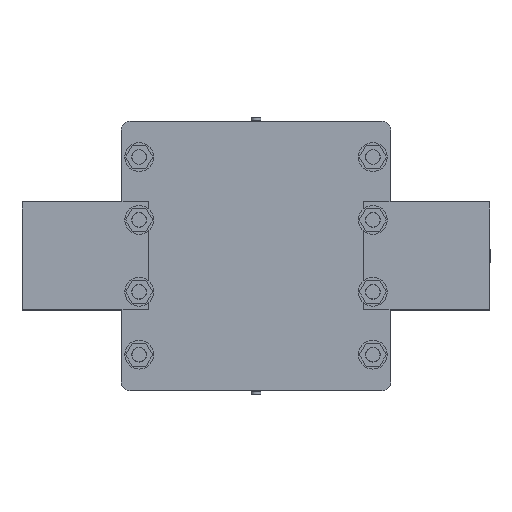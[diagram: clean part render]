
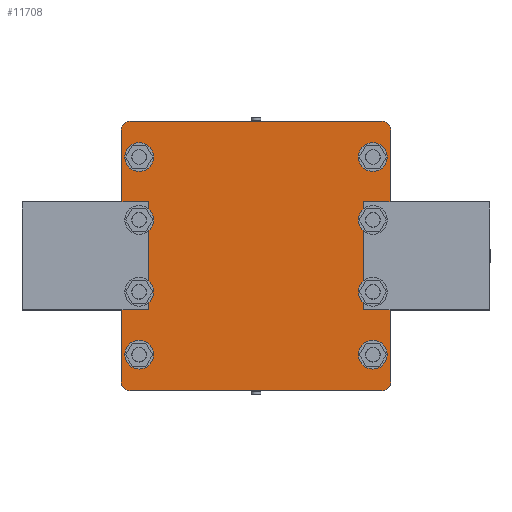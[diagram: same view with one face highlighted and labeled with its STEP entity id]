
A CAD part, top view. The second image highlights one B-rep face of the part: STEP entity #11708.
In plain terms, the highlighted planar face has unit normal (0, 0, 1).
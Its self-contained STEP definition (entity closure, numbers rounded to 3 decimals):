
#11448 = VERTEX_POINT('',#11449);
#11449 = CARTESIAN_POINT('',(-70.,-75.,12.));
#11455 = EDGE_CURVE('',#11448,#11456,#11458,.T.);
#11456 = VERTEX_POINT('',#11457);
#11457 = CARTESIAN_POINT('',(70.,-75.,12.));
#11458 = LINE('',#11459,#11460);
#11459 = CARTESIAN_POINT('',(-70.,-75.,12.));
#11460 = VECTOR('',#11461,1.);
#11461 = DIRECTION('',(1.,0.,0.));
#11488 = VERTEX_POINT('',#11489);
#11489 = CARTESIAN_POINT('',(-75.,-70.,12.));
#11495 = EDGE_CURVE('',#11488,#11448,#11496,.T.);
#11496 = CIRCLE('',#11497,5.);
#11497 = AXIS2_PLACEMENT_3D('',#11498,#11499,#11500);
#11498 = CARTESIAN_POINT('',(-70.,-70.,12.));
#11499 = DIRECTION('',(0.,0.,1.));
#11500 = DIRECTION('',(1.,0.,0.));
#11519 = EDGE_CURVE('',#11456,#11520,#11522,.T.);
#11520 = VERTEX_POINT('',#11521);
#11521 = CARTESIAN_POINT('',(75.,-70.,12.));
#11522 = CIRCLE('',#11523,5.);
#11523 = AXIS2_PLACEMENT_3D('',#11524,#11525,#11526);
#11524 = CARTESIAN_POINT('',(70.,-70.,12.));
#11525 = DIRECTION('',(0.,0.,1.));
#11526 = DIRECTION('',(1.,0.,0.));
#11708 = ADVANCED_FACE('',(#11709,#11754,#11765,#11776,#11787,#11798,
    #11809,#11820,#11831),#11842,.T.);
#11709 = FACE_BOUND('',#11710,.T.);
#11710 = EDGE_LOOP('',(#11711,#11712,#11713,#11721,#11730,#11738,#11747,
    #11753));
#11711 = ORIENTED_EDGE('',*,*,#11455,.T.);
#11712 = ORIENTED_EDGE('',*,*,#11519,.T.);
#11713 = ORIENTED_EDGE('',*,*,#11714,.T.);
#11714 = EDGE_CURVE('',#11520,#11715,#11717,.T.);
#11715 = VERTEX_POINT('',#11716);
#11716 = CARTESIAN_POINT('',(75.,70.,12.));
#11717 = LINE('',#11718,#11719);
#11718 = CARTESIAN_POINT('',(75.,-70.,12.));
#11719 = VECTOR('',#11720,1.);
#11720 = DIRECTION('',(0.,1.,0.));
#11721 = ORIENTED_EDGE('',*,*,#11722,.T.);
#11722 = EDGE_CURVE('',#11715,#11723,#11725,.T.);
#11723 = VERTEX_POINT('',#11724);
#11724 = CARTESIAN_POINT('',(70.,75.,12.));
#11725 = CIRCLE('',#11726,5.);
#11726 = AXIS2_PLACEMENT_3D('',#11727,#11728,#11729);
#11727 = CARTESIAN_POINT('',(70.,70.,12.));
#11728 = DIRECTION('',(0.,0.,1.));
#11729 = DIRECTION('',(1.,0.,0.));
#11730 = ORIENTED_EDGE('',*,*,#11731,.T.);
#11731 = EDGE_CURVE('',#11723,#11732,#11734,.T.);
#11732 = VERTEX_POINT('',#11733);
#11733 = CARTESIAN_POINT('',(-70.,75.,12.));
#11734 = LINE('',#11735,#11736);
#11735 = CARTESIAN_POINT('',(70.,75.,12.));
#11736 = VECTOR('',#11737,1.);
#11737 = DIRECTION('',(-1.,0.,0.));
#11738 = ORIENTED_EDGE('',*,*,#11739,.T.);
#11739 = EDGE_CURVE('',#11732,#11740,#11742,.T.);
#11740 = VERTEX_POINT('',#11741);
#11741 = CARTESIAN_POINT('',(-75.,70.,12.));
#11742 = CIRCLE('',#11743,5.);
#11743 = AXIS2_PLACEMENT_3D('',#11744,#11745,#11746);
#11744 = CARTESIAN_POINT('',(-70.,70.,12.));
#11745 = DIRECTION('',(0.,0.,1.));
#11746 = DIRECTION('',(1.,0.,0.));
#11747 = ORIENTED_EDGE('',*,*,#11748,.T.);
#11748 = EDGE_CURVE('',#11740,#11488,#11749,.T.);
#11749 = LINE('',#11750,#11751);
#11750 = CARTESIAN_POINT('',(-75.,70.,12.));
#11751 = VECTOR('',#11752,1.);
#11752 = DIRECTION('',(0.,-1.,0.));
#11753 = ORIENTED_EDGE('',*,*,#11495,.T.);
#11754 = FACE_BOUND('',#11755,.T.);
#11755 = EDGE_LOOP('',(#11756));
#11756 = ORIENTED_EDGE('',*,*,#11757,.F.);
#11757 = EDGE_CURVE('',#11758,#11758,#11760,.T.);
#11758 = VERTEX_POINT('',#11759);
#11759 = CARTESIAN_POINT('',(-60.5,-55.,12.));
#11760 = CIRCLE('',#11761,4.5);
#11761 = AXIS2_PLACEMENT_3D('',#11762,#11763,#11764);
#11762 = CARTESIAN_POINT('',(-65.,-55.,12.));
#11763 = DIRECTION('',(0.,0.,1.));
#11764 = DIRECTION('',(1.,0.,0.));
#11765 = FACE_BOUND('',#11766,.T.);
#11766 = EDGE_LOOP('',(#11767));
#11767 = ORIENTED_EDGE('',*,*,#11768,.F.);
#11768 = EDGE_CURVE('',#11769,#11769,#11771,.T.);
#11769 = VERTEX_POINT('',#11770);
#11770 = CARTESIAN_POINT('',(-60.5,-20.,12.));
#11771 = CIRCLE('',#11772,4.5);
#11772 = AXIS2_PLACEMENT_3D('',#11773,#11774,#11775);
#11773 = CARTESIAN_POINT('',(-65.,-20.,12.));
#11774 = DIRECTION('',(0.,0.,1.));
#11775 = DIRECTION('',(1.,0.,0.));
#11776 = FACE_BOUND('',#11777,.T.);
#11777 = EDGE_LOOP('',(#11778));
#11778 = ORIENTED_EDGE('',*,*,#11779,.F.);
#11779 = EDGE_CURVE('',#11780,#11780,#11782,.T.);
#11780 = VERTEX_POINT('',#11781);
#11781 = CARTESIAN_POINT('',(69.5,-55.,12.));
#11782 = CIRCLE('',#11783,4.5);
#11783 = AXIS2_PLACEMENT_3D('',#11784,#11785,#11786);
#11784 = CARTESIAN_POINT('',(65.,-55.,12.));
#11785 = DIRECTION('',(0.,0.,1.));
#11786 = DIRECTION('',(1.,0.,0.));
#11787 = FACE_BOUND('',#11788,.T.);
#11788 = EDGE_LOOP('',(#11789));
#11789 = ORIENTED_EDGE('',*,*,#11790,.F.);
#11790 = EDGE_CURVE('',#11791,#11791,#11793,.T.);
#11791 = VERTEX_POINT('',#11792);
#11792 = CARTESIAN_POINT('',(69.5,-20.,12.));
#11793 = CIRCLE('',#11794,4.5);
#11794 = AXIS2_PLACEMENT_3D('',#11795,#11796,#11797);
#11795 = CARTESIAN_POINT('',(65.,-20.,12.));
#11796 = DIRECTION('',(0.,0.,1.));
#11797 = DIRECTION('',(1.,0.,0.));
#11798 = FACE_BOUND('',#11799,.T.);
#11799 = EDGE_LOOP('',(#11800));
#11800 = ORIENTED_EDGE('',*,*,#11801,.F.);
#11801 = EDGE_CURVE('',#11802,#11802,#11804,.T.);
#11802 = VERTEX_POINT('',#11803);
#11803 = CARTESIAN_POINT('',(-60.5,20.,12.));
#11804 = CIRCLE('',#11805,4.5);
#11805 = AXIS2_PLACEMENT_3D('',#11806,#11807,#11808);
#11806 = CARTESIAN_POINT('',(-65.,20.,12.));
#11807 = DIRECTION('',(0.,0.,1.));
#11808 = DIRECTION('',(1.,0.,0.));
#11809 = FACE_BOUND('',#11810,.T.);
#11810 = EDGE_LOOP('',(#11811));
#11811 = ORIENTED_EDGE('',*,*,#11812,.F.);
#11812 = EDGE_CURVE('',#11813,#11813,#11815,.T.);
#11813 = VERTEX_POINT('',#11814);
#11814 = CARTESIAN_POINT('',(-60.5,55.,12.));
#11815 = CIRCLE('',#11816,4.5);
#11816 = AXIS2_PLACEMENT_3D('',#11817,#11818,#11819);
#11817 = CARTESIAN_POINT('',(-65.,55.,12.));
#11818 = DIRECTION('',(0.,0.,1.));
#11819 = DIRECTION('',(1.,0.,0.));
#11820 = FACE_BOUND('',#11821,.T.);
#11821 = EDGE_LOOP('',(#11822));
#11822 = ORIENTED_EDGE('',*,*,#11823,.F.);
#11823 = EDGE_CURVE('',#11824,#11824,#11826,.T.);
#11824 = VERTEX_POINT('',#11825);
#11825 = CARTESIAN_POINT('',(69.5,20.,12.));
#11826 = CIRCLE('',#11827,4.5);
#11827 = AXIS2_PLACEMENT_3D('',#11828,#11829,#11830);
#11828 = CARTESIAN_POINT('',(65.,20.,12.));
#11829 = DIRECTION('',(0.,0.,1.));
#11830 = DIRECTION('',(1.,0.,0.));
#11831 = FACE_BOUND('',#11832,.T.);
#11832 = EDGE_LOOP('',(#11833));
#11833 = ORIENTED_EDGE('',*,*,#11834,.F.);
#11834 = EDGE_CURVE('',#11835,#11835,#11837,.T.);
#11835 = VERTEX_POINT('',#11836);
#11836 = CARTESIAN_POINT('',(69.5,55.,12.));
#11837 = CIRCLE('',#11838,4.5);
#11838 = AXIS2_PLACEMENT_3D('',#11839,#11840,#11841);
#11839 = CARTESIAN_POINT('',(65.,55.,12.));
#11840 = DIRECTION('',(0.,0.,1.));
#11841 = DIRECTION('',(1.,0.,0.));
#11842 = PLANE('',#11843);
#11843 = AXIS2_PLACEMENT_3D('',#11844,#11845,#11846);
#11844 = CARTESIAN_POINT('',(0.,0.,12.));
#11845 = DIRECTION('',(0.,0.,1.));
#11846 = DIRECTION('',(1.,0.,0.));
